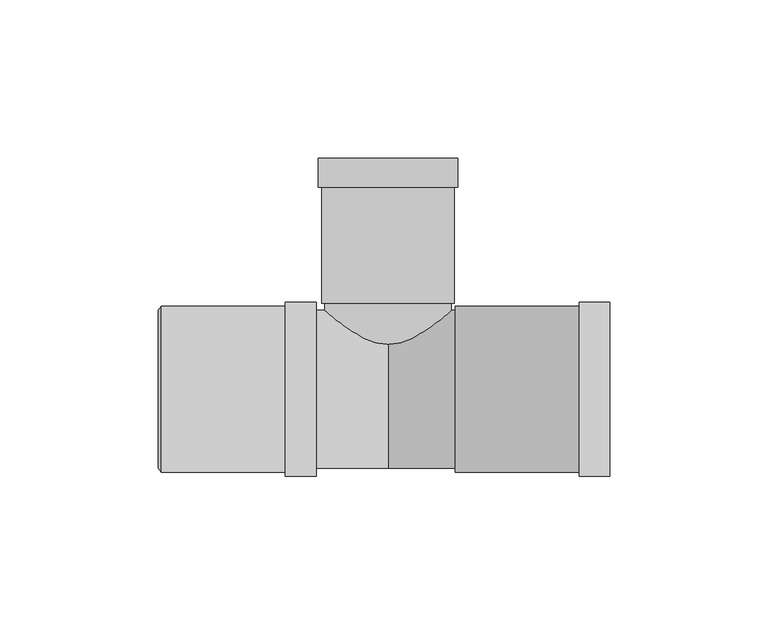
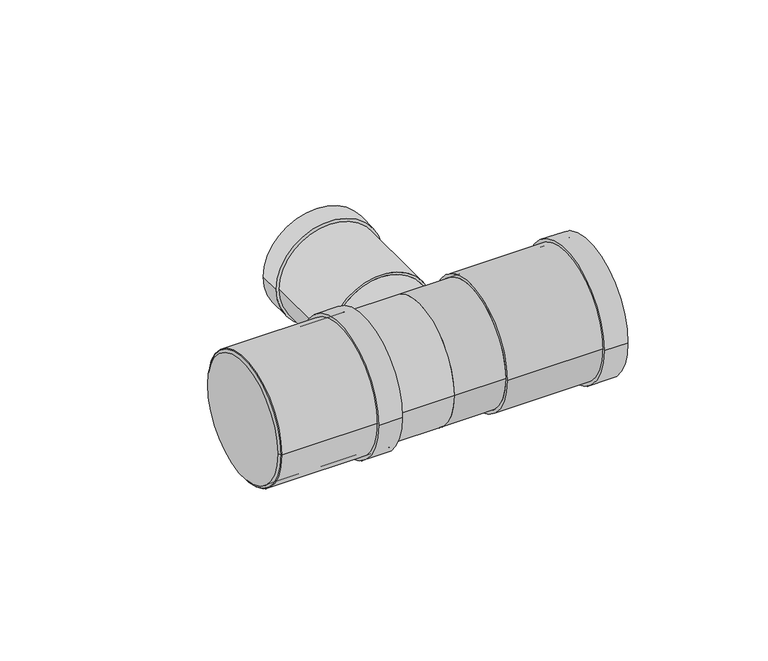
"""IFC4 building model written with IfcOpenShell, lengths in millimetres: pipe fitting geometry, Superdrain HTEA Branch : Superdrain HTEA Branch."""

from ifc_helpers import new_model, si_unit, point, frame, origin, origin_2d, place, context, project, spatial, polyline, circle_curve, trimmed, segment, composite_curve, outline, extrude, source, transform, mapped, element, save
from ifc_brep_helpers import plane_surface, revolved_surface, advanced_brep


def pipe_fitting_0effaf64(model_context):
    return source(origin(), model_context, "Body", "SolidModel", [
        extrude(outline(composite_curve([segment(trimmed(circle_curve(origin_2d(), 26.25), [point((26.25, 0.0))], [point((-26.25, 0.0))], False, "CARTESIAN"), True, "CONTINUOUS"), segment(trimmed(circle_curve(origin_2d(), 26.25), [point((-26.25, 0.0))], [point((26.25, 0.0))], False, "CARTESIAN"), True, "CONTINUOUS")], self_intersect=False), holes=[composite_curve([segment(trimmed(circle_curve(origin_2d(), 25.0), [point((25.0, 0.0))], [point((-25.0, 0.0))], True, "CARTESIAN"), True, "CONTINUOUS"), segment(trimmed(circle_curve(origin_2d(), 25.0), [point((-25.0, 0.0))], [point((25.0, 0.0))], True, "CARTESIAN"), True, "CONTINUOUS")], self_intersect=False)]), frame((-71.8, 0.0, 0.0), z_axis=(1.0, 0.0, 0.0), x_axis=(0.0, 1.0, 0.0)), (0.0, 0.0, 1.0), 49.0),
        extrude(outline(composite_curve([segment(trimmed(circle_curve(origin_2d(), 27.5625), [point((27.5625, 0.0))], [point((-27.5625, 0.0))], False, "CARTESIAN"), True, "CONTINUOUS"), segment(trimmed(circle_curve(origin_2d(), 27.5625), [point((-27.5625, 0.0))], [point((27.5625, 0.0))], False, "CARTESIAN"), True, "CONTINUOUS")], self_intersect=False), holes=[composite_curve([segment(trimmed(circle_curve(origin_2d(), 25.0), [point((25.0, 0.0))], [point((-25.0, 0.0))], True, "CARTESIAN"), True, "CONTINUOUS"), segment(trimmed(circle_curve(origin_2d(), 25.0), [point((-25.0, 0.0))], [point((25.0, 0.0))], True, "CARTESIAN"), True, "CONTINUOUS")], self_intersect=False)]), frame((-32.6, 0.0, 0.0), z_axis=(1.0, 0.0, 0.0), x_axis=(0.0, 1.0, 0.0)), (0.0, 0.0, 1.0), 9.8),
        advanced_brep(
        [(-72.8, 25.0, 0.0), (-72.8, -25.0, 0.0), (-71.8, 26.25, 0.0), (-71.8, -26.25, 0.0)],
        [
            (0, 1, circle_curve(frame((-72.8, 0.0, 0.0), z_axis=(-1.0, 0.0, 0.0), x_axis=(0.0, 1.0000000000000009, 0.0)), 25.0)),
            (1, 0, circle_curve(frame((-72.8, 0.0, 0.0), z_axis=(-1.0, 0.0, 0.0), x_axis=(0.0, -1.0000000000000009, 0.0)), 25.0)),
            (2, 3, circle_curve(frame((-71.8, 0.0, 0.0), z_axis=(1.0, 0.0, 0.0), x_axis=(0.0, -1.0000000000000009, 0.0)), 26.25)),
            (3, 2, circle_curve(frame((-71.8, 0.0, 0.0), z_axis=(1.0, 0.0, 0.0), x_axis=(0.0, 1.0000000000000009, 0.0)), 26.25)),
            (3, 1),
            (0, 2),
        ],
        [
            plane_surface(frame((-72.8, 0.0, 0.0), z_axis=(-1.0, 0.0, 0.0), x_axis=(0.0, 0.0, -1.0))),
            plane_surface(frame((-71.8, 0.0, 0.0), z_axis=(1.0, 0.0, 0.0), x_axis=(0.0, 0.0, -1.0))),
            revolved_surface(polyline([(-72.8, 24.999999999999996, 0.0), (-71.8, 26.25, 0.0)]), (-92.8, 0.0, 0.0), (1.0000000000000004, 0.0, 0.0)),
            revolved_surface(polyline([(-72.8, -24.999999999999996, 0.0), (-71.8, -26.25, 0.0)]), (-92.8, 0.0, 0.0), (1.0000000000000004, 0.0, 0.0)),
        ],
        [
            (0, [[1, 2]]),
            (1, [[3, 4]]),
            (2, [[-4, 5, -1, 6]]),
            (3, [[-3, -6, -2, -5]]),
        ],
    ),
        extrude(outline(composite_curve([segment(trimmed(circle_curve(origin_2d(), 26.25), [point((-26.25, 0.0))], [point((26.25, 0.0))], False, "CARTESIAN"), True, "CONTINUOUS"), segment(trimmed(circle_curve(origin_2d(), 26.25), [point((26.25, 0.0))], [point((-26.25, 0.0))], False, "CARTESIAN"), True, "CONTINUOUS")], self_intersect=False), holes=[composite_curve([segment(trimmed(circle_curve(origin_2d(), 25.0), [point((25.0, 0.0))], [point((-25.0, 0.0))], True, "CARTESIAN"), True, "CONTINUOUS"), segment(trimmed(circle_curve(origin_2d(), 25.0), [point((-25.0, 0.0))], [point((25.0, 0.0))], True, "CARTESIAN"), True, "CONTINUOUS")], self_intersect=False)]), frame((21.2, 0.0, 0.0), z_axis=(1.0, 0.0, 0.0), x_axis=(0.0, 1.0, 0.0)), (0.0, 0.0, 1.0), 49.0),
        extrude(outline(composite_curve([segment(trimmed(circle_curve(origin_2d(), 27.5625), [point((27.5625, 0.0))], [point((-27.5625, 0.0))], False, "CARTESIAN"), True, "CONTINUOUS"), segment(trimmed(circle_curve(origin_2d(), 27.5625), [point((-27.5625, 0.0))], [point((27.5625, 0.0))], False, "CARTESIAN"), True, "CONTINUOUS")], self_intersect=False), holes=[composite_curve([segment(trimmed(circle_curve(origin_2d(), 25.0), [point((25.0, 0.0))], [point((-25.0, 0.0))], True, "CARTESIAN"), True, "CONTINUOUS"), segment(trimmed(circle_curve(origin_2d(), 25.0), [point((-25.0, 0.0))], [point((25.0, 0.0))], True, "CARTESIAN"), True, "CONTINUOUS")], self_intersect=False)]), frame((60.4, 0.0, 0.0), z_axis=(1.0, 0.0, 0.0), x_axis=(0.0, 1.0, 0.0)), (0.0, 0.0, 1.0), 9.8),
        extrude(outline(composite_curve([segment(trimmed(circle_curve(origin_2d(), 20.0), [point((0.0, 20.0))], [point((0.0, -20.0))], False, "CARTESIAN"), True, "CONTINUOUS"), segment(trimmed(circle_curve(origin_2d(), 20.0), [point((0.0, -20.0))], [point((0.0, 20.0))], False, "CARTESIAN"), True, "CONTINUOUS")], self_intersect=False)), frame((0.0, 0.0, 0.0), z_axis=(0.0, 1.0, 0.0), x_axis=(0.0, 0.0, 1.0)), (0.0, 0.0, 1.0), 27.2),
        extrude(outline(composite_curve([segment(trimmed(circle_curve(origin_2d(), 25.0), [point((25.0, 0.0))], [point((-25.0, 0.0))], False, "CARTESIAN"), True, "CONTINUOUS"), segment(trimmed(circle_curve(origin_2d(), 25.0), [point((-25.0, 0.0))], [point((25.0, 0.0))], False, "CARTESIAN"), True, "CONTINUOUS")], self_intersect=False)), frame((-71.8, 0.0, 0.0), z_axis=(1.0, 0.0, 0.0), x_axis=(0.0, 1.0, 0.0)), (0.0, 0.0, 1.0), 71.8),
        extrude(outline(composite_curve([segment(trimmed(circle_curve(origin_2d(), 25.0), [point((-25.0, 0.0))], [point((25.0, 0.0))], False, "CARTESIAN"), True, "CONTINUOUS"), segment(trimmed(circle_curve(origin_2d(), 25.0), [point((25.0, 0.0))], [point((-25.0, 0.0))], False, "CARTESIAN"), True, "CONTINUOUS")], self_intersect=False)), frame((0.0, 0.0, 0.0), z_axis=(1.0, 0.0, 0.0), x_axis=(0.0, 1.0, 0.0)), (0.0, 0.0, 1.0), 21.2),
        extrude(outline(composite_curve([segment(trimmed(circle_curve(origin_2d(), 22.05), [point((0.0, 22.05))], [point((0.0, -22.05))], False, "CARTESIAN"), True, "CONTINUOUS"), segment(trimmed(circle_curve(origin_2d(), 22.05), [point((0.0, -22.05))], [point((0.0, 22.05))], False, "CARTESIAN"), True, "CONTINUOUS")], self_intersect=False), holes=[composite_curve([segment(trimmed(circle_curve(origin_2d(), 20.0), [point((0.0, 20.0))], [point((0.0, -20.0))], True, "CARTESIAN"), True, "CONTINUOUS"), segment(trimmed(circle_curve(origin_2d(), 20.0), [point((0.0, -20.0))], [point((0.0, 20.0))], True, "CARTESIAN"), True, "CONTINUOUS")], self_intersect=False)]), frame((0.0, 64.0, 0.0), z_axis=(0.0, 1.0, 0.0), x_axis=(0.0, 0.0, 1.0)), (0.0, 0.0, 1.0), 9.2),
        extrude(outline(composite_curve([segment(trimmed(circle_curve(origin_2d(), 21.0), [point((0.0, 21.0))], [point((0.0, -21.0))], False, "CARTESIAN"), True, "CONTINUOUS"), segment(trimmed(circle_curve(origin_2d(), 21.0), [point((0.0, -21.0))], [point((0.0, 21.0))], False, "CARTESIAN"), True, "CONTINUOUS")], self_intersect=False), holes=[composite_curve([segment(trimmed(circle_curve(origin_2d(), 20.0), [point((0.0, 20.0))], [point((0.0, -20.0))], True, "CARTESIAN"), True, "CONTINUOUS"), segment(trimmed(circle_curve(origin_2d(), 20.0), [point((0.0, -20.0))], [point((0.0, 20.0))], True, "CARTESIAN"), True, "CONTINUOUS")], self_intersect=False)]), frame((0.0, 27.2, 0.0), z_axis=(0.0, 1.0, 0.0), x_axis=(0.0, 0.0, 1.0)), (0.0, 0.0, 1.0), 46.0),
    ])


if __name__ == "__main__":
    model = new_model("IFC4")
    model_context = context("Model", 3, world=origin())
    ifc_project = project(units=[si_unit("LENGTHUNIT", "METRE", prefix="MILLI")], contexts=[model_context])
    site = spatial("IfcSite", under=ifc_project)
    building = spatial("IfcBuilding", under=site)
    placement = place(None, origin())
    pipe_fitting_shape = pipe_fitting_0effaf64(model_context)
    element("IfcPipeFitting", 1, ObjectType="Superdrain HTEA Branch : Superdrain HTEA Branch", at=placement, inside=building, context=model_context, shape_type="MappedRepresentation", body=[
        mapped(pipe_fitting_shape, transform((0.0, 0.0, 0.0), x_axis=(1.0, 0.0, 0.0), y_axis=(0.0, 1.0, 0.0), z_axis=(0.0, 0.0, 1.0))),
    ])
    save(model, "model.ifc")
